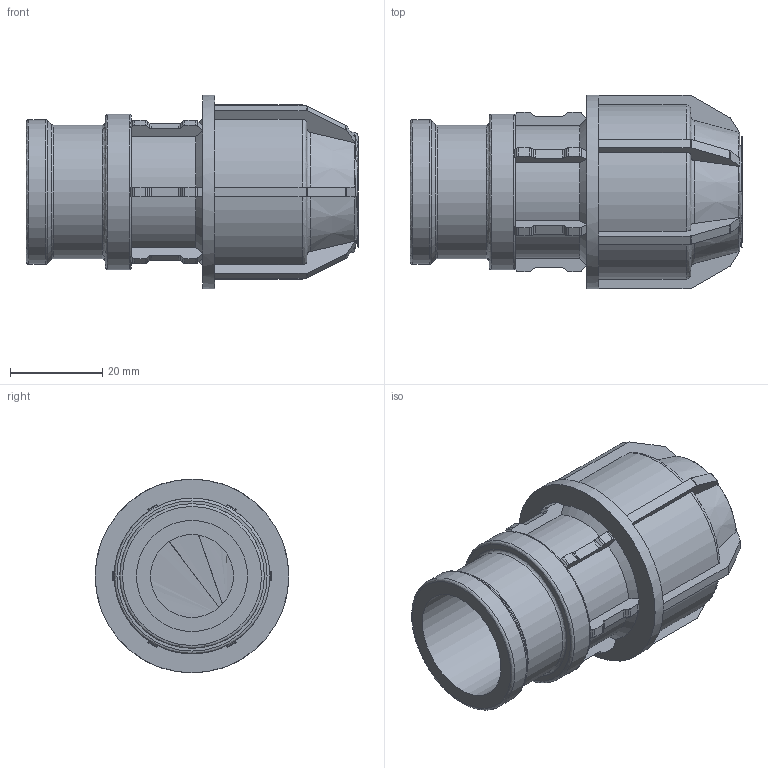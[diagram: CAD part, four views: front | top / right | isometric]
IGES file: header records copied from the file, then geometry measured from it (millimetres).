
Global section: file name: 140300020007.ipt; native system: Autodesk Inventor 2015; preprocessor: unknown; author: KIM; date: 20180409.131004; units: millimetre
Bounding box: 72 x 42 x 42 mm (x, y, z)
Volume: 36477.1 mm3; surface area: 15900.3 mm2
Topology: 1 solids, 1 shells, 261 faces, 745 edges, 480 vertices
Faces by surface type: plane 160, cylinder 52, revolution 36, cone 13
Full cylindrical faces by diameter (mm): 28.94 x1, 31.352 x1, 33.764 x1, 42 x1
